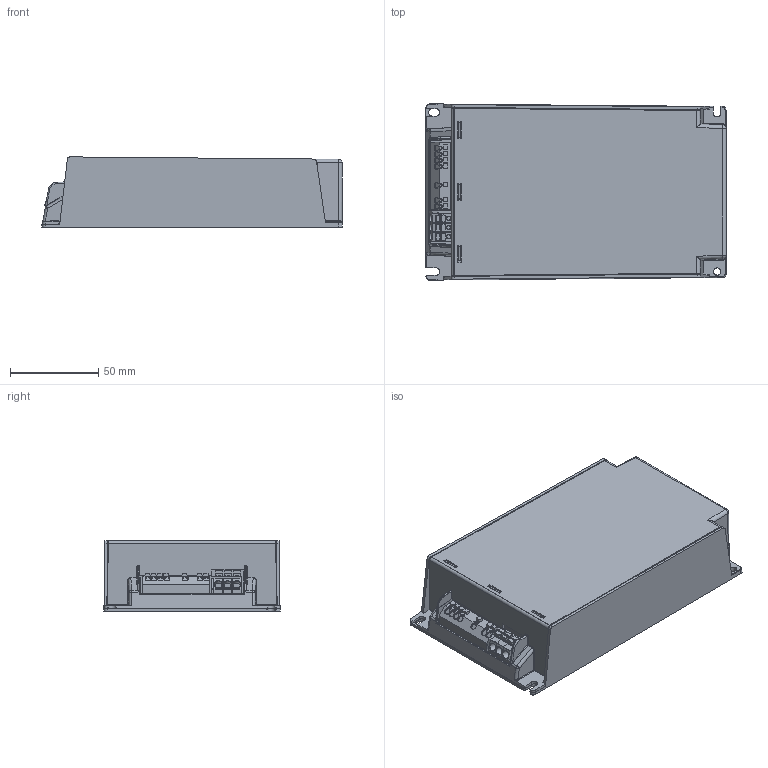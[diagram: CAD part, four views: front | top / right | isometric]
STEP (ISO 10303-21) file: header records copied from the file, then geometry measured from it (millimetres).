
FILE_DESCRIPTION(/* description */ (''),/* implementation_level */ '2;1');
FILE_NAME(/* name */ 'C:\Data\Vault\LE-TPD\9290 009 76206_Xi FP 165W 0.2-0.7A SNLDAE 230V C170 sXt\3D-customer_9290 009 76206_Xi FP 165W 0.2-0.7A SNLDAE 230V C170 sXt.stp',/* time_stamp */ '2016-04-01T08:12:30+02:00',/* author */ ('NLY10150'),/* organization */ (''),/* preprocessor_version */ 'ST-DEVELOPER v15.2',/* originating_system */ 'Autodesk Inventor 2014',/* authorisation */ '');
FILE_SCHEMA (('AUTOMOTIVE_DESIGN { 1 0 10303 214 3 1 1 }'));
Length unit declared in the file: centimetre
Products named in the file (1): 3D-customer_9290 009 76206_Xi FP 165W 0.2-0.7A SNLDAE 230V C170 sXt
Bounding box: 169.6 x 99.6 x 39.71 mm (x, y, z)
Volume: 586024.5 mm3; surface area: 87035.4 mm2
Topology: 1 solids, 10 shells, 887 faces, 2428 edges, 1549 vertices
Faces by surface type: plane 626, cylinder 173, bspline 46, sphere 19, cone 17, torus 6
Full cylindrical faces by diameter (mm): 2.2 x3, 4.3 x3
Entity records: 30178 total; most frequent: CARTESIAN_POINT 6983, ORIENTED_EDGE 4804, DIRECTION 4454, EDGE_CURVE 2402, LINE 1866, VECTOR 1866, VERTEX_POINT 1546, AXIS2_PLACEMENT_3D 1294
